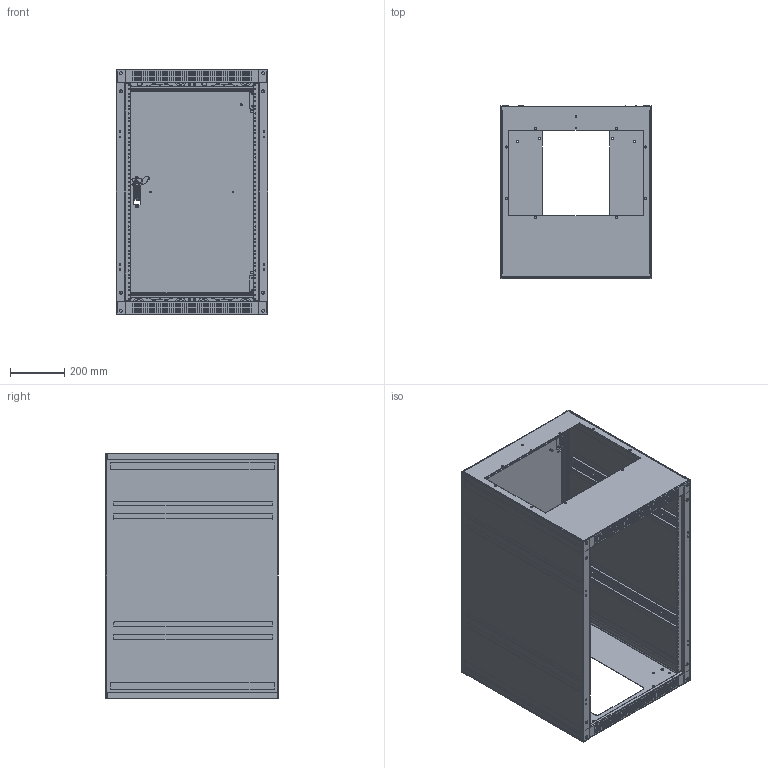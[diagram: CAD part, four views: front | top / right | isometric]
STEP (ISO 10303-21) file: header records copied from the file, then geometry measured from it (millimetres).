
FILE_DESCRIPTION((''),'2;1');
FILE_NAME('ERK-1825KD_ASM','2016-02-19T',('rrenderos'),('Middle Atlantic Products'),'PRO/ENGINEER BY PARAMETRIC TECHNOLOGY CORPORATION, 2014310','PRO/ENGINEER BY PARAMETRIC TECHNOLOGY CORPORATION, 2014310','');
FILE_SCHEMA(('CONFIG_CONTROL_DESIGN'));
Length unit declared in the file: inch
Products named in the file (44): BERK25B; PERK25B_ASM; PKEKOPH; 500-00788; 500-00032; AKDERK25B_ASM; BE1825SR; BERRB25; BERK25LWB; PE1825SR_ASM; IERR18R; AEKD1825SR_ASM; BE1825SL; PE1825SL_ASM; IERR18L; AEKD1825SL_ASM; PERK25T_ASM; BERK25T; PKEKOPUHFH; AERK25T_ASM; PERK18RD2; 500-00812_HINGE_LATCH_BASE_R; HINGE_LATCH_PIN; HINGE_LATCH_C-RING; HINGE_LATCH_SPRING; 500-00812_ASM; 500-00811_HINGE_LATCH_BASE_L; 500-00811_ASM; 500-00822; 500-00809_810_HOUSING; 500-00809_810_HANDLE; 500-00809_810_BUTTON; 500-00809_810_BRACKET; 500-00809_810_PIN; 500-00810_ASM; 500-00818; 500-00827; HANDLE_SCREW; HANDLE_CAPTIVATED_LOCKWASHER; HANDLE_CAPTIVATED_WASHER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
Assembly tree (64 placements, depth 4):
  ERK-1825KD_ASM
    AKDERK25B_ASM
      PERK25B_ASM
        BERK25B
      PKEKOPH  x2
      500-00788  x2
      500-00032
    AEKD1825SR_ASM
      PE1825SR_ASM
        BE1825SR
        BERRB25  x2
        BERK25LWB  x2
      IERR18R
    AEKD1825SL_ASM
      PE1825SL_ASM
        BE1825SL
        BERRB25  x2
        BERK25LWB  x2
      IERR18L
    AERK25T_ASM
      PERK25T_ASM
      BERK25T
      PKEKOPUHFH  x2
      500-00788
    AERK18RD2_ASM
      PERK18RD2
      500-00812_ASM
        500-00812_HINGE_LATCH_BASE_R
        HINGE_LATCH_PIN
        HINGE_LATCH_C-RING
        HINGE_LATCH_SPRING
      500-00811_ASM
        500-00811_HINGE_LATCH_BASE_L
        HINGE_LATCH_PIN
        HINGE_LATCH_C-RING
        HINGE_LATCH_SPRING
      500-00822  x4
      500-00810_ASM
        500-00809_810_HOUSING
        500-00809_810_HANDLE
        500-00809_810_BUTTON
        500-00809_810_BRACKET
        500-00809_810_PIN  x2
      500-00818
      500-00827  x2
      500-00826_ASM  x4
        HANDLE_SCREW
        HANDLE_CAPTIVATED_LOCKWASHER
        HANDLE_CAPTIVATED_WASHER
      500-00953
Bounding box: 558.8 x 636.4 x 904.75 mm (x, y, z)
Volume: 4441183 mm3; surface area: 6007001.7 mm2
Topology: 85 solids, 85 shells, 3532 faces, 8749 edges, 5398 vertices
Faces by surface type: plane 1872, cylinder 1402, bspline 144, torus 54, cone 40, sphere 20
Entity records: 89061 total; most frequent: CARTESIAN_POINT 25597, DIRECTION 13459, ORIENTED_EDGE 12604, EDGE_CURVE 6302, AXIS2_PLACEMENT_3D 4876, VERTEX_POINT 3954, VECTOR 3707, LINE 3707
